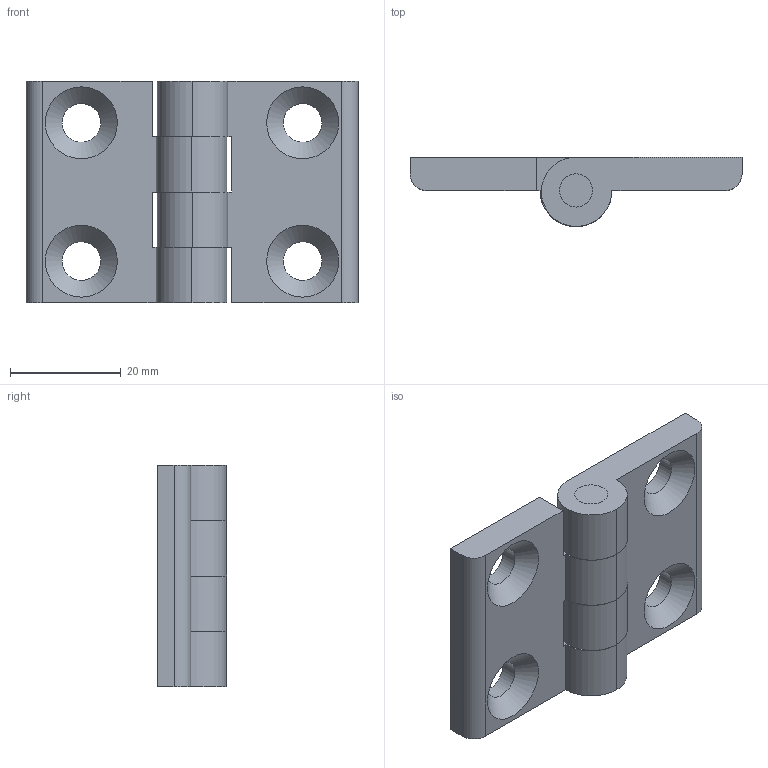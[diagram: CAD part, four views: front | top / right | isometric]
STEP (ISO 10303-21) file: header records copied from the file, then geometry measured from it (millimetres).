
FILE_DESCRIPTION((''),'2;1');
FILE_NAME('E:\catalogue and flyer\Profile catalogue 2015\Accessories ACC info\Accessories ACC step file 31Mar16\ACC-AH4040-8.stp','2016-04-07T13:34:32',('h029'),(''),'Autodesk Inventor 11','Autodesk Inventor 11','');
FILE_SCHEMA(('AUTOMOTIVE_DESIGN { 1 0 10303 214 1 1 1 1 }'));
Length unit declared in the file: millimetre
Products named in the file (3): ACC-AH4040-8; hinge 6243 part 1; pin
Assembly tree (3 placements, depth 2):
  ACC-AH4040-8
    hinge 6243 part 1  x2
    pin
Bounding box: 60 x 12.5 x 40 mm (x, y, z)
Volume: 14867 mm3; surface area: 8866.6 mm2
Topology: 3 solids, 3 shells, 45 faces, 117 edges, 78 vertices
Faces by surface type: plane 22, cylinder 15, bspline 8
Full cylindrical faces by diameter (mm): 6 x5
Entity records: 825 total; most frequent: CARTESIAN_POINT 187, DIRECTION 125, ORIENTED_EDGE 102, EDGE_CURVE 51, AXIS2_PLACEMENT_3D 48, EDGE_LOOP 39, VERTEX_POINT 38, VECTOR 29
